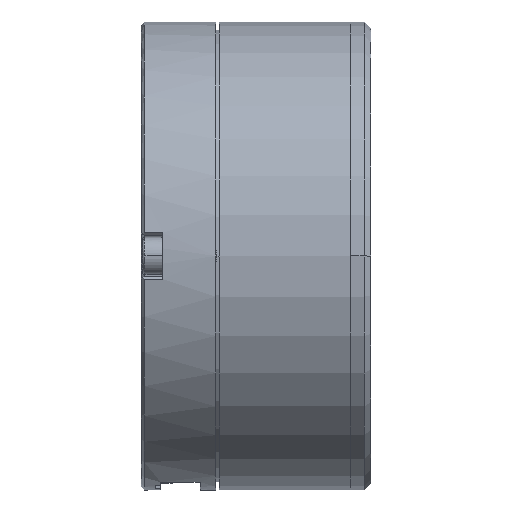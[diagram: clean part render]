
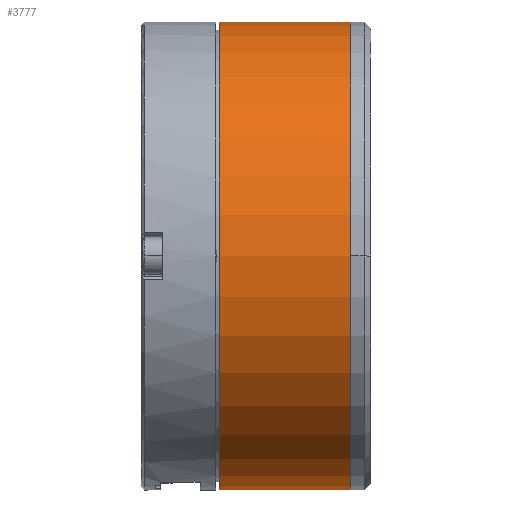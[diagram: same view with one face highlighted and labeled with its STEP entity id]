
A CAD part, front view. The second image highlights one B-rep face of the part: STEP entity #3777.
In plain terms, the highlighted cylindrical face has radius 34.5 mm (diameter 69 mm), a partial arc.
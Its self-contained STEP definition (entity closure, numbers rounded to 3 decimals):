
#451 = VERTEX_POINT ( 'NONE', #6339 ) ;
#521 = CARTESIAN_POINT ( 'NONE',  ( -3., 0., 34.5 ) ) ;
#613 = CARTESIAN_POINT ( 'NONE',  ( -3., 0., 0. ) ) ;
#1002 = CARTESIAN_POINT ( 'NONE',  ( -22.4, 0., -34.5 ) ) ;
#1304 = ORIENTED_EDGE ( 'NONE', *, *, #4901, .F. ) ;
#1433 = DIRECTION ( 'NONE',  ( 0., 0., 1. ) ) ;
#1792 = EDGE_CURVE ( 'NONE', #451, #8256, #4918, .T. ) ;
#2109 = CYLINDRICAL_SURFACE ( 'NONE', #2444, 34.5 ) ;
#2437 = VECTOR ( 'NONE', #4978, 1000. ) ;
#2444 = AXIS2_PLACEMENT_3D ( 'NONE', #613, #5220, #3767 ) ;
#3020 = EDGE_LOOP ( 'NONE', ( #1304, #8752, #9301, #3910 ) ) ;
#3572 = DIRECTION ( 'NONE',  ( -1., 0., 0. ) ) ;
#3574 = CARTESIAN_POINT ( 'NONE',  ( -3., 0., -34.5 ) ) ;
#3709 = VERTEX_POINT ( 'NONE', #4924 ) ;
#3715 = EDGE_CURVE ( 'NONE', #9630, #451, #7315, .T. ) ;
#3767 = DIRECTION ( 'NONE',  ( 0., 0., 1. ) ) ;
#3777 = ADVANCED_FACE ( 'NONE', ( #5370 ), #2109, .T. ) ;
#3797 = CARTESIAN_POINT ( 'NONE',  ( -3., 0., 34.5 ) ) ;
#3875 = CARTESIAN_POINT ( 'NONE',  ( -3., 0., 0. ) ) ;
#3910 = ORIENTED_EDGE ( 'NONE', *, *, #1792, .T. ) ;
#4118 = AXIS2_PLACEMENT_3D ( 'NONE', #6041, #5197, #1433 ) ;
#4490 = AXIS2_PLACEMENT_3D ( 'NONE', #3875, #5225, #6915 ) ;
#4901 = EDGE_CURVE ( 'NONE', #3709, #8256, #4926, .T. ) ;
#4918 = CIRCLE ( 'NONE', #4118, 34.5 ) ;
#4924 = CARTESIAN_POINT ( 'NONE',  ( -3., 0., -34.5 ) ) ;
#4926 = LINE ( 'NONE', #3574, #2437 ) ;
#4978 = DIRECTION ( 'NONE',  ( -1., 0., 0. ) ) ;
#5197 = DIRECTION ( 'NONE',  ( 1., 0., 0. ) ) ;
#5220 = DIRECTION ( 'NONE',  ( -1., 0., 0. ) ) ;
#5225 = DIRECTION ( 'NONE',  ( -1., 0., 0. ) ) ;
#5370 = FACE_OUTER_BOUND ( 'NONE', #3020, .T. ) ;
#6041 = CARTESIAN_POINT ( 'NONE',  ( -22.4, 0., 0. ) ) ;
#6339 = CARTESIAN_POINT ( 'NONE',  ( -22.4, 0., 34.5 ) ) ;
#6394 = EDGE_CURVE ( 'NONE', #3709, #9630, #8784, .T. ) ;
#6915 = DIRECTION ( 'NONE',  ( 0., 0., 1. ) ) ;
#7315 = LINE ( 'NONE', #521, #8624 ) ;
#8256 = VERTEX_POINT ( 'NONE', #1002 ) ;
#8624 = VECTOR ( 'NONE', #3572, 1000. ) ;
#8752 = ORIENTED_EDGE ( 'NONE', *, *, #6394, .T. ) ;
#8784 = CIRCLE ( 'NONE', #4490, 34.5 ) ;
#9301 = ORIENTED_EDGE ( 'NONE', *, *, #3715, .T. ) ;
#9630 = VERTEX_POINT ( 'NONE', #3797 ) ;
